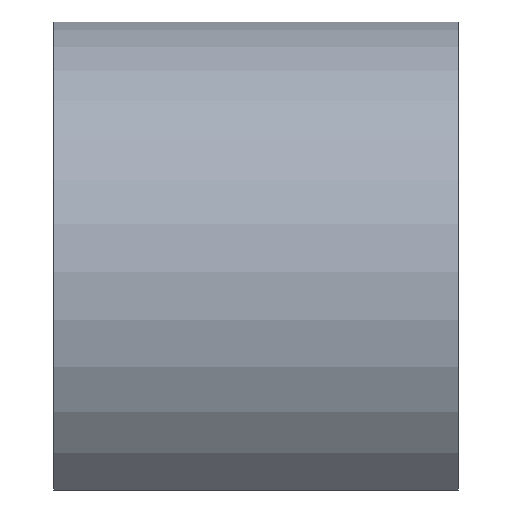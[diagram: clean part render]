
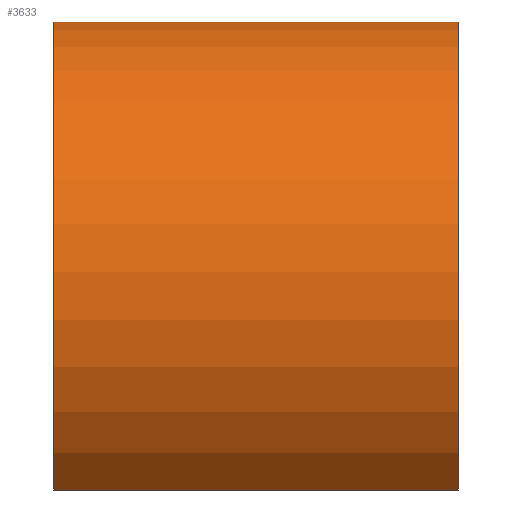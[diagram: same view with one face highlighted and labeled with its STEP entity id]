
A CAD part, front view. The second image highlights one B-rep face of the part: STEP entity #3633.
In plain terms, the highlighted cylindrical face has radius 68 mm (diameter 136 mm), a partial arc.
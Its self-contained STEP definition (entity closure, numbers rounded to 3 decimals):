
#111 = CARTESIAN_POINT ( 'NONE',  ( 0., 0., -50. ) ) ;
#1128 = DIRECTION ( 'NONE',  ( 0., 0., -1. ) ) ;
#1129 = DIRECTION ( 'NONE',  ( 0., 0., -1. ) ) ;
#1782 = VECTOR ( 'NONE', #19938, 1000. ) ;
#2346 = CARTESIAN_POINT ( 'NONE',  ( 48.166, -48., 50. ) ) ;
#2424 = AXIS2_PLACEMENT_3D ( 'NONE', #111, #8255, #21580 ) ;
#2659 = ORIENTED_EDGE ( 'NONE', *, *, #12930, .T. ) ;
#3633 = ADVANCED_FACE ( 'NONE', ( #16640 ), #21659, .T. ) ;
#4020 = LINE ( 'NONE', #2346, #17215 ) ;
#4779 = LINE ( 'NONE', #11664, #1782 ) ;
#5173 = ORIENTED_EDGE ( 'NONE', *, *, #10332, .T. ) ;
#5336 = AXIS2_PLACEMENT_3D ( 'NONE', #9679, #1128, #14511 ) ;
#8255 = DIRECTION ( 'NONE',  ( 0., 0., -1. ) ) ;
#9080 = EDGE_CURVE ( 'NONE', #18740, #20712, #20366, .T. ) ;
#9222 = CARTESIAN_POINT ( 'NONE',  ( 48.166, -48., -50. ) ) ;
#9407 = ORIENTED_EDGE ( 'NONE', *, *, #10884, .F. ) ;
#9520 = VERTEX_POINT ( 'NONE', #14930 ) ;
#9679 = CARTESIAN_POINT ( 'NONE',  ( 0., 0., 50. ) ) ;
#10332 = EDGE_CURVE ( 'NONE', #9520, #20546, #16119, .T. ) ;
#10884 = EDGE_CURVE ( 'NONE', #9520, #18740, #4779, .T. ) ;
#11664 = CARTESIAN_POINT ( 'NONE',  ( -48.166, -48., 50. ) ) ;
#11798 = AXIS2_PLACEMENT_3D ( 'NONE', #14946, #1129, #15283 ) ;
#12930 = EDGE_CURVE ( 'NONE', #20546, #20712, #4020, .T. ) ;
#13958 = CARTESIAN_POINT ( 'NONE',  ( 48.166, -48., 50. ) ) ;
#14270 = DIRECTION ( 'NONE',  ( 0., 0., -1. ) ) ;
#14511 = DIRECTION ( 'NONE',  ( -1., 0., 0. ) ) ;
#14930 = CARTESIAN_POINT ( 'NONE',  ( -48.166, -48., 50. ) ) ;
#14946 = CARTESIAN_POINT ( 'NONE',  ( 0., 0., 50. ) ) ;
#15283 = DIRECTION ( 'NONE',  ( -1., 0., 0. ) ) ;
#16119 = CIRCLE ( 'NONE', #5336, 68. ) ;
#16640 = FACE_OUTER_BOUND ( 'NONE', #18092, .T. ) ;
#17144 = ORIENTED_EDGE ( 'NONE', *, *, #9080, .F. ) ;
#17215 = VECTOR ( 'NONE', #14270, 1000. ) ;
#18092 = EDGE_LOOP ( 'NONE', ( #17144, #9407, #5173, #2659 ) ) ;
#18174 = CARTESIAN_POINT ( 'NONE',  ( -48.166, -48., -50. ) ) ;
#18740 = VERTEX_POINT ( 'NONE', #18174 ) ;
#19938 = DIRECTION ( 'NONE',  ( 0., 0., -1. ) ) ;
#20366 = CIRCLE ( 'NONE', #2424, 68. ) ;
#20546 = VERTEX_POINT ( 'NONE', #13958 ) ;
#20712 = VERTEX_POINT ( 'NONE', #9222 ) ;
#21580 = DIRECTION ( 'NONE',  ( -1., 0., 0. ) ) ;
#21659 = CYLINDRICAL_SURFACE ( 'NONE', #11798, 68. ) ;
